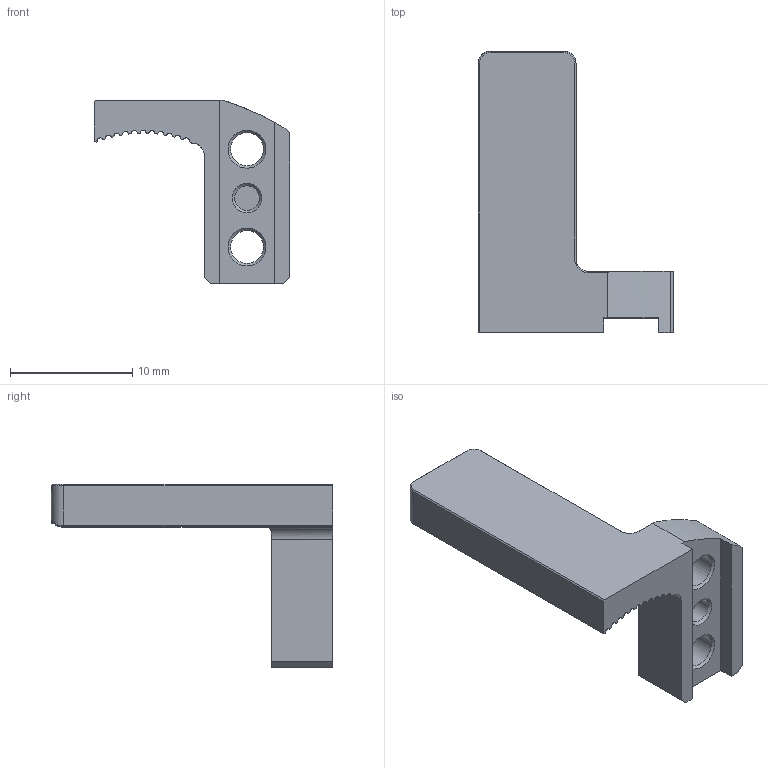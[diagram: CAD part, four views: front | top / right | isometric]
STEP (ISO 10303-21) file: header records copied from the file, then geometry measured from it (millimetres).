
FILE_DESCRIPTION (( 'STEP AP203' ), '1' );
FILE_NAME ('ERG02010004梓饜忒硌.STEP', '2022-05-13T06:43:12', ( 'User' ), ( 'China' ), 'SwSTEP 2.0', 'SolidWorks 2016', '' );
FILE_SCHEMA (( 'CONFIG_CONTROL_DESIGN' ));
Length unit declared in the file: millimetre
Products named in the file (2): ERG02010004梓饜忒硌
Bounding box: 16 x 23 x 15 mm (x, y, z)
Volume: 900.7 mm3; surface area: 1098.6 mm2
Topology: 1 solids, 1 shells, 62 faces, 169 edges, 110 vertices
Faces by surface type: cylinder 31, plane 22, cone 8, bspline 1
Full cylindrical faces by diameter (mm): 2 x1, 2.7 x2
Entity records: 2127 total; most frequent: CARTESIAN_POINT 441, DIRECTION 329, ORIENTED_EDGE 310, EDGE_CURVE 155, AXIS2_PLACEMENT_3D 124, VERTEX_POINT 104, LINE 81, VECTOR 81
